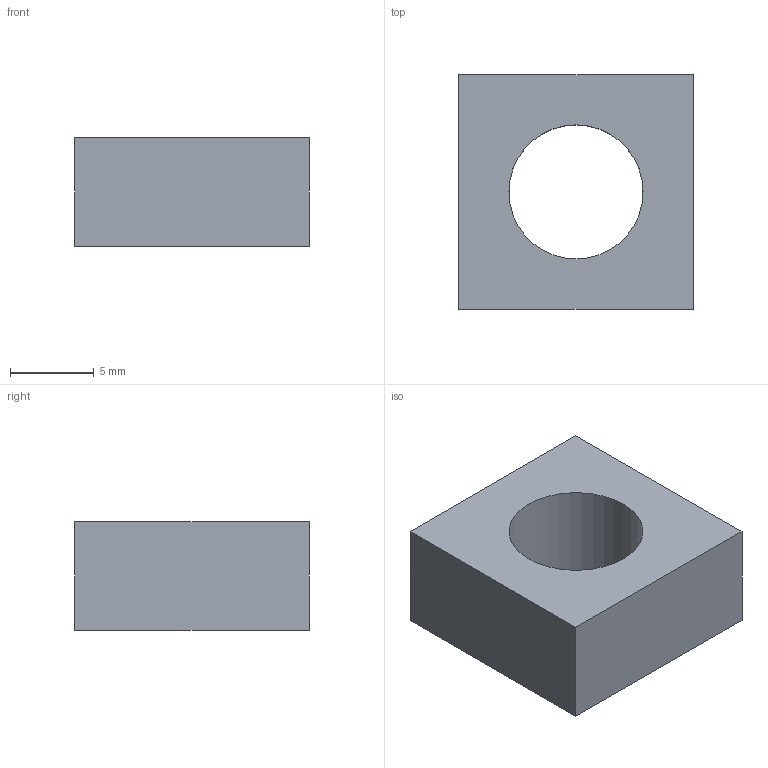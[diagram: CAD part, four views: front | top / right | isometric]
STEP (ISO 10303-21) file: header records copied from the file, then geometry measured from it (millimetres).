
FILE_DESCRIPTION( ( 'STEP AP203' ), '1' );
FILE_NAME( 'C:/NSM-08-8.stp', '2013-10-20T23:53:45', ( ' ' ), ( ' ' ), 'XStep 1.0', ' ', ' ' );
FILE_SCHEMA( ( 'CONFIG_CONTROL_DESIGN' ) );
Length unit declared in the file: metre
Products named in the file (1): 1
Bounding box: 14 x 14 x 6.5 mm (x, y, z)
Volume: 944.6 mm3; surface area: 819.3 mm2
Topology: 1 solids, 1 shells, 7 faces, 15 edges, 10 vertices
Faces by surface type: bspline 7
Entity records: 243 total; most frequent: CARTESIAN_POINT 63, ORIENTED_EDGE 28, DIRECTION 18, EDGE_CURVE 14, LINE 12, VECTOR 12, EDGE_LOOP 10, VERTEX_POINT 10
